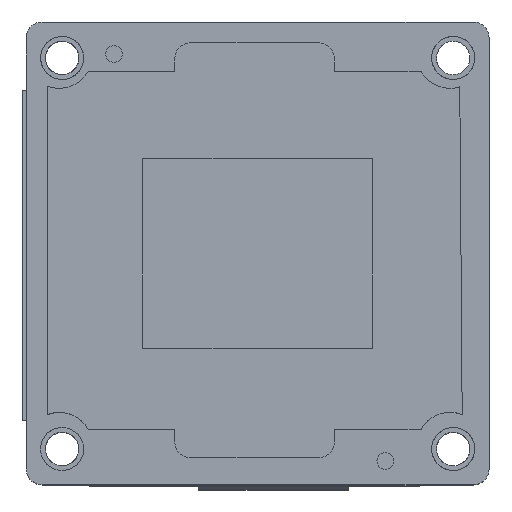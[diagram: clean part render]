
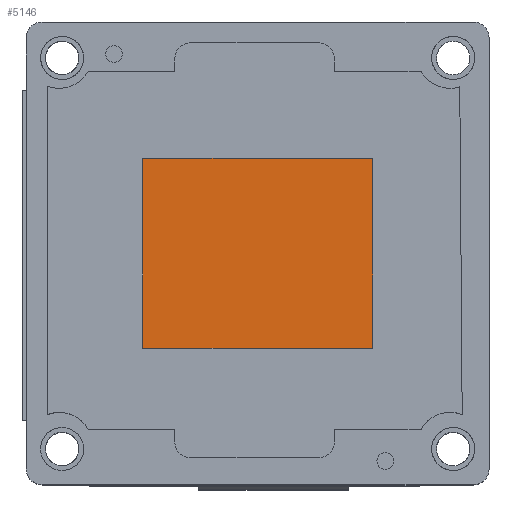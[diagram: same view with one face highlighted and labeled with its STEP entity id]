
A CAD part, top view. The second image highlights one B-rep face of the part: STEP entity #5146.
In plain terms, the highlighted planar face has unit normal (0, 0, 1).
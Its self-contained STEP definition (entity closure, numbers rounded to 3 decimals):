
#1465 = CARTESIAN_POINT ( 'NONE',  ( 14.896, 10.528, -4.776 ) ) ;
#2456 = LINE ( 'NONE', #15913, #8876 ) ;
#2759 = CARTESIAN_POINT ( 'NONE',  ( 0.496, 10.528, -4.776 ) ) ;
#3541 = DIRECTION ( 'NONE',  ( 1., 0., 0. ) ) ;
#3636 = CARTESIAN_POINT ( 'NONE',  ( 14.896, -1.372, -4.776 ) ) ;
#3641 = ORIENTED_EDGE ( 'NONE', *, *, #24033, .T. ) ;
#4635 = CARTESIAN_POINT ( 'NONE',  ( 7.696, 4.578, -4.776 ) ) ;
#4954 = LINE ( 'NONE', #14569, #18190 ) ;
#5146 = ADVANCED_FACE ( 'NONE', ( #12648 ), #31600, .F. ) ;
#7683 = VECTOR ( 'NONE', #10981, 1000. ) ;
#8518 = VERTEX_POINT ( 'NONE', #1465 ) ;
#8615 = DIRECTION ( 'NONE',  ( 0., -1., 0. ) ) ;
#8876 = VECTOR ( 'NONE', #8615, 1000. ) ;
#10981 = DIRECTION ( 'NONE',  ( -1., 0., 0. ) ) ;
#12452 = AXIS2_PLACEMENT_3D ( 'NONE', #4635, #12768, #20953 ) ;
#12648 = FACE_OUTER_BOUND ( 'NONE', #15171, .T. ) ;
#12768 = DIRECTION ( 'NONE',  ( 0., 0., -1. ) ) ;
#13056 = VERTEX_POINT ( 'NONE', #2759 ) ;
#13444 = ORIENTED_EDGE ( 'NONE', *, *, #17985, .T. ) ;
#14569 = CARTESIAN_POINT ( 'NONE',  ( 0.496, -1.372, -4.776 ) ) ;
#15171 = EDGE_LOOP ( 'NONE', ( #3641, #18344, #30687, #13444 ) ) ;
#15813 = CARTESIAN_POINT ( 'NONE',  ( 0.496, -1.372, -4.776 ) ) ;
#15913 = CARTESIAN_POINT ( 'NONE',  ( 0.496, -1.372, -4.776 ) ) ;
#17985 = EDGE_CURVE ( 'NONE', #21311, #23313, #4954, .T. ) ;
#18190 = VECTOR ( 'NONE', #3541, 1000. ) ;
#18344 = ORIENTED_EDGE ( 'NONE', *, *, #23084, .T. ) ;
#20953 = DIRECTION ( 'NONE',  ( 0., 1., 0. ) ) ;
#21311 = VERTEX_POINT ( 'NONE', #15813 ) ;
#21922 = CARTESIAN_POINT ( 'NONE',  ( 0.496, 10.528, -4.776 ) ) ;
#23084 = EDGE_CURVE ( 'NONE', #8518, #13056, #30390, .T. ) ;
#23313 = VERTEX_POINT ( 'NONE', #25642 ) ;
#24033 = EDGE_CURVE ( 'NONE', #23313, #8518, #34192, .T. ) ;
#25642 = CARTESIAN_POINT ( 'NONE',  ( 14.896, -1.372, -4.776 ) ) ;
#28335 = DIRECTION ( 'NONE',  ( 0., 1., 0. ) ) ;
#29057 = EDGE_CURVE ( 'NONE', #13056, #21311, #2456, .T. ) ;
#30390 = LINE ( 'NONE', #21922, #7683 ) ;
#30687 = ORIENTED_EDGE ( 'NONE', *, *, #29057, .T. ) ;
#31600 = PLANE ( 'NONE',  #12452 ) ;
#32859 = VECTOR ( 'NONE', #28335, 1000. ) ;
#34192 = LINE ( 'NONE', #3636, #32859 ) ;
